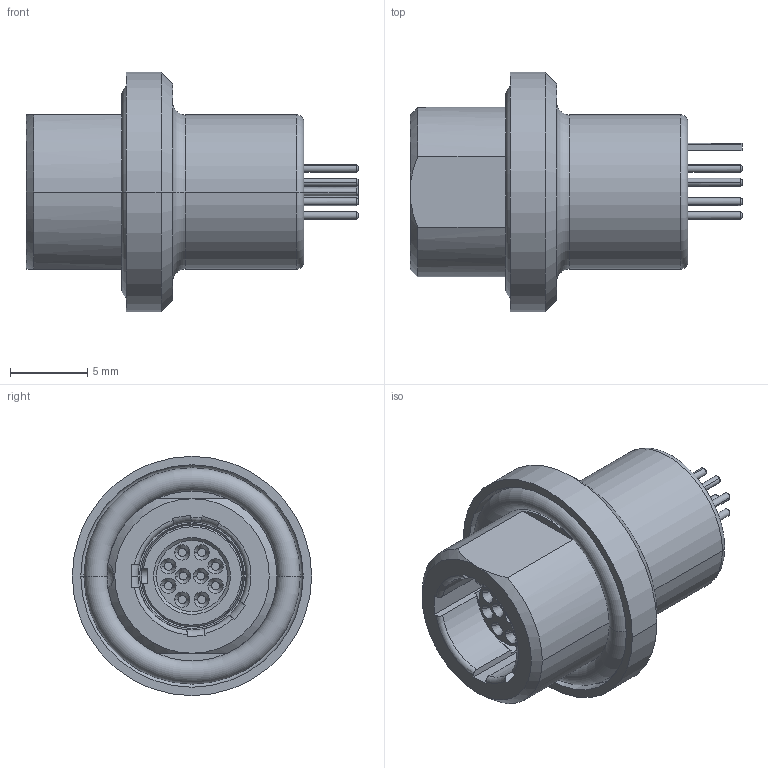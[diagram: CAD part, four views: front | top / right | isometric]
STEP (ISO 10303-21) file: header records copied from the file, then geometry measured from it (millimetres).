
FILE_DESCRIPTION((''),'2;1');
FILE_NAME('G80Y_R-P10UC00-000L_WITHOUT_HEX','2020-10-13T12:08:22',('EUnterhaslberger'),(''),'CREO PARAMETRIC BY PTC INC, 2018300','CREO PARAMETRIC BY PTC INC, 2018300','');
FILE_SCHEMA(('AP242_MANAGED_MODEL_BASED_3D_ENGINEERING_MIM_LF { 1 0 10303 442 1 1 4 }'));
Length unit declared in the file: millimetre
Products named in the file (1): G80Y_R-P10UC00-000L_WITHOUT_HEX
Bounding box: 21.5 x 15.5 x 15.5 mm (x, y, z)
Volume: 1491.5 mm3; surface area: 1822.3 mm2
Topology: 2 solids, 3 shells, 214 faces, 517 edges, 331 vertices
Faces by surface type: plane 65, cylinder 60, cone 56, torus 30, sphere 3
Entity records: 8098 total; most frequent: CARTESIAN_POINT 1460, DIRECTION 1133, ORIENTED_EDGE 1030, EDGE_CURVE 515, AXIS2_PLACEMENT_3D 467, VERTEX_POINT 331, CIRCLE 253, EDGE_LOOP 242
